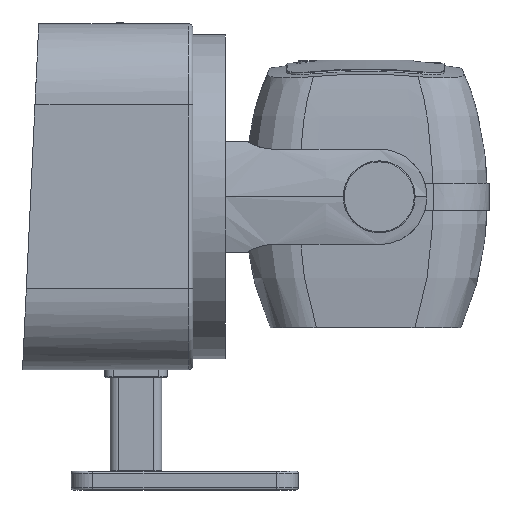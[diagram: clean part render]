
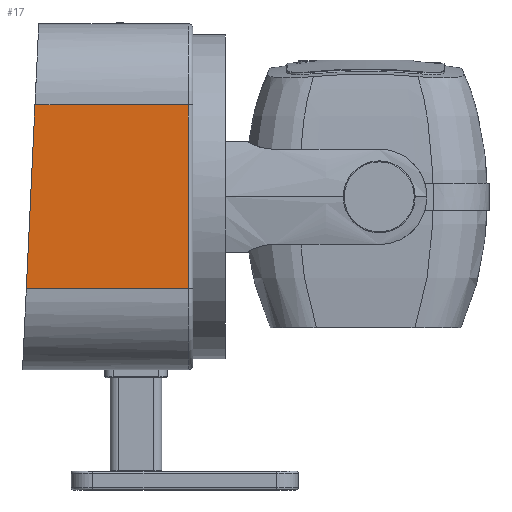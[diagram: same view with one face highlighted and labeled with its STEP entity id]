
A CAD part, left-side view. The second image highlights one B-rep face of the part: STEP entity #17.
In plain terms, the highlighted planar face has unit normal (-1, 0, 0).
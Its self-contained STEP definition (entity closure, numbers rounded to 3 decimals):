
#17 = ADVANCED_FACE('',(#18),#32,.F.);
#18 = FACE_BOUND('',#19,.F.);
#19 = EDGE_LOOP('',(#20,#55,#83,#109));
#20 = ORIENTED_EDGE('',*,*,#21,.F.);
#21 = EDGE_CURVE('',#22,#24,#26,.T.);
#22 = VERTEX_POINT('',#23);
#23 = CARTESIAN_POINT('',(-63.2,55.6,-34.));
#24 = VERTEX_POINT('',#25);
#25 = CARTESIAN_POINT('',(-63.2,55.6,34.));
#26 = SURFACE_CURVE('',#27,(#31,#43),.PCURVE_S1.);
#27 = LINE('',#28,#29);
#28 = CARTESIAN_POINT('',(-63.2,55.6,-34.));
#29 = VECTOR('',#30,1.);
#30 = DIRECTION('',(0.,0.,1.));
#31 = PCURVE('',#32,#37);
#32 = PLANE('',#33);
#33 = AXIS2_PLACEMENT_3D('',#34,#35,#36);
#34 = CARTESIAN_POINT('',(-63.2,54.,-64.));
#35 = DIRECTION('',(1.,0.,-0.));
#36 = DIRECTION('',(0.,0.,1.));
#37 = DEFINITIONAL_REPRESENTATION('',(#38),#42);
#38 = LINE('',#39,#40);
#39 = CARTESIAN_POINT('',(30.,-1.6));
#40 = VECTOR('',#41,1.);
#41 = DIRECTION('',(1.,0.));
#42 = ( GEOMETRIC_REPRESENTATION_CONTEXT(2) 
PARAMETRIC_REPRESENTATION_CONTEXT() REPRESENTATION_CONTEXT('2D SPACE',''
  ) );
#43 = PCURVE('',#44,#49);
#44 = CYLINDRICAL_SURFACE('',#45,1.6);
#45 = AXIS2_PLACEMENT_3D('',#46,#47,#48);
#46 = CARTESIAN_POINT('',(-61.6,55.6,-34.));
#47 = DIRECTION('',(0.,0.,1.));
#48 = DIRECTION('',(-1.,-0.,0.));
#49 = DEFINITIONAL_REPRESENTATION('',(#50),#54);
#50 = LINE('',#51,#52);
#51 = CARTESIAN_POINT('',(0.,0.));
#52 = VECTOR('',#53,1.);
#53 = DIRECTION('',(0.,1.));
#54 = ( GEOMETRIC_REPRESENTATION_CONTEXT(2) 
PARAMETRIC_REPRESENTATION_CONTEXT() REPRESENTATION_CONTEXT('2D SPACE',''
  ) );
#55 = ORIENTED_EDGE('',*,*,#56,.T.);
#56 = EDGE_CURVE('',#22,#57,#59,.T.);
#57 = VERTEX_POINT('',#58);
#58 = CARTESIAN_POINT('',(-63.2,115.594,-34.));
#59 = SURFACE_CURVE('',#60,(#64,#71),.PCURVE_S1.);
#60 = LINE('',#61,#62);
#61 = CARTESIAN_POINT('',(-63.2,54.,-34.));
#62 = VECTOR('',#63,1.);
#63 = DIRECTION('',(-0.,1.,0.));
#64 = PCURVE('',#32,#65);
#65 = DEFINITIONAL_REPRESENTATION('',(#66),#70);
#66 = LINE('',#67,#68);
#67 = CARTESIAN_POINT('',(30.,0.));
#68 = VECTOR('',#69,1.);
#69 = DIRECTION('',(0.,-1.));
#70 = ( GEOMETRIC_REPRESENTATION_CONTEXT(2) 
PARAMETRIC_REPRESENTATION_CONTEXT() REPRESENTATION_CONTEXT('2D SPACE',''
  ) );
#71 = PCURVE('',#72,#77);
#72 = CYLINDRICAL_SURFACE('',#73,30.);
#73 = AXIS2_PLACEMENT_3D('',#74,#75,#76);
#74 = CARTESIAN_POINT('',(-33.2,54.,-34.));
#75 = DIRECTION('',(-0.,1.,0.));
#76 = DIRECTION('',(-1.,-0.,0.));
#77 = DEFINITIONAL_REPRESENTATION('',(#78),#82);
#78 = LINE('',#79,#80);
#79 = CARTESIAN_POINT('',(-0.,0.));
#80 = VECTOR('',#81,1.);
#81 = DIRECTION('',(-0.,1.));
#82 = ( GEOMETRIC_REPRESENTATION_CONTEXT(2) 
PARAMETRIC_REPRESENTATION_CONTEXT() REPRESENTATION_CONTEXT('2D SPACE',''
  ) );
#83 = ORIENTED_EDGE('',*,*,#84,.F.);
#84 = EDGE_CURVE('',#85,#57,#87,.T.);
#85 = VERTEX_POINT('',#86);
#86 = CARTESIAN_POINT('',(-63.2,112.406,34.));
#87 = SURFACE_CURVE('',#88,(#92,#98),.PCURVE_S1.);
#88 = LINE('',#89,#90);
#89 = CARTESIAN_POINT('',(-63.2,117.775,-80.527));
#90 = VECTOR('',#91,1.);
#91 = DIRECTION('',(-0.,0.047,-0.999));
#92 = PCURVE('',#32,#93);
#93 = DEFINITIONAL_REPRESENTATION('',(#94),#97);
#94 = B_SPLINE_CURVE_WITH_KNOTS('',1,(#95,#96),.UNSPECIFIED.,.F.,.F.,(2,
    2),(-114.652,-46.578),.PIECEWISE_BEZIER_KNOTS.);
#95 = CARTESIAN_POINT('',(98.,-58.406));
#96 = CARTESIAN_POINT('',(30.,-61.594));
#97 = ( GEOMETRIC_REPRESENTATION_CONTEXT(2) 
PARAMETRIC_REPRESENTATION_CONTEXT() REPRESENTATION_CONTEXT('2D SPACE',''
  ) );
#98 = PCURVE('',#99,#104);
#99 = PLANE('',#100);
#100 = AXIS2_PLACEMENT_3D('',#101,#102,#103);
#101 = CARTESIAN_POINT('',(-100.,118.688,-100.));
#102 = DIRECTION('',(0.,-0.999,-0.047));
#103 = DIRECTION('',(0.,-0.047,0.999));
#104 = DEFINITIONAL_REPRESENTATION('',(#105),#108);
#105 = B_SPLINE_CURVE_WITH_KNOTS('',1,(#106,#107),.UNSPECIFIED.,.F.,.F.,
  (2,2),(-114.652,-46.578),.PIECEWISE_BEZIER_KNOTS.);
#106 = CARTESIAN_POINT('',(134.147,-36.8));
#107 = CARTESIAN_POINT('',(66.072,-36.8));
#108 = ( GEOMETRIC_REPRESENTATION_CONTEXT(2) 
PARAMETRIC_REPRESENTATION_CONTEXT() REPRESENTATION_CONTEXT('2D SPACE',''
  ) );
#109 = ORIENTED_EDGE('',*,*,#110,.F.);
#110 = EDGE_CURVE('',#24,#85,#111,.T.);
#111 = SURFACE_CURVE('',#112,(#116,#123),.PCURVE_S1.);
#112 = LINE('',#113,#114);
#113 = CARTESIAN_POINT('',(-63.2,54.,34.));
#114 = VECTOR('',#115,1.);
#115 = DIRECTION('',(-0.,1.,0.));
#116 = PCURVE('',#32,#117);
#117 = DEFINITIONAL_REPRESENTATION('',(#118),#122);
#118 = LINE('',#119,#120);
#119 = CARTESIAN_POINT('',(98.,0.));
#120 = VECTOR('',#121,1.);
#121 = DIRECTION('',(0.,-1.));
#122 = ( GEOMETRIC_REPRESENTATION_CONTEXT(2) 
PARAMETRIC_REPRESENTATION_CONTEXT() REPRESENTATION_CONTEXT('2D SPACE',''
  ) );
#123 = PCURVE('',#124,#129);
#124 = CYLINDRICAL_SURFACE('',#125,30.);
#125 = AXIS2_PLACEMENT_3D('',#126,#127,#128);
#126 = CARTESIAN_POINT('',(-33.2,54.,34.));
#127 = DIRECTION('',(-0.,1.,0.));
#128 = DIRECTION('',(-1.,-0.,0.));
#129 = DEFINITIONAL_REPRESENTATION('',(#130),#134);
#130 = LINE('',#131,#132);
#131 = CARTESIAN_POINT('',(0.,0.));
#132 = VECTOR('',#133,1.);
#133 = DIRECTION('',(0.,1.));
#134 = ( GEOMETRIC_REPRESENTATION_CONTEXT(2) 
PARAMETRIC_REPRESENTATION_CONTEXT() REPRESENTATION_CONTEXT('2D SPACE',''
  ) );
